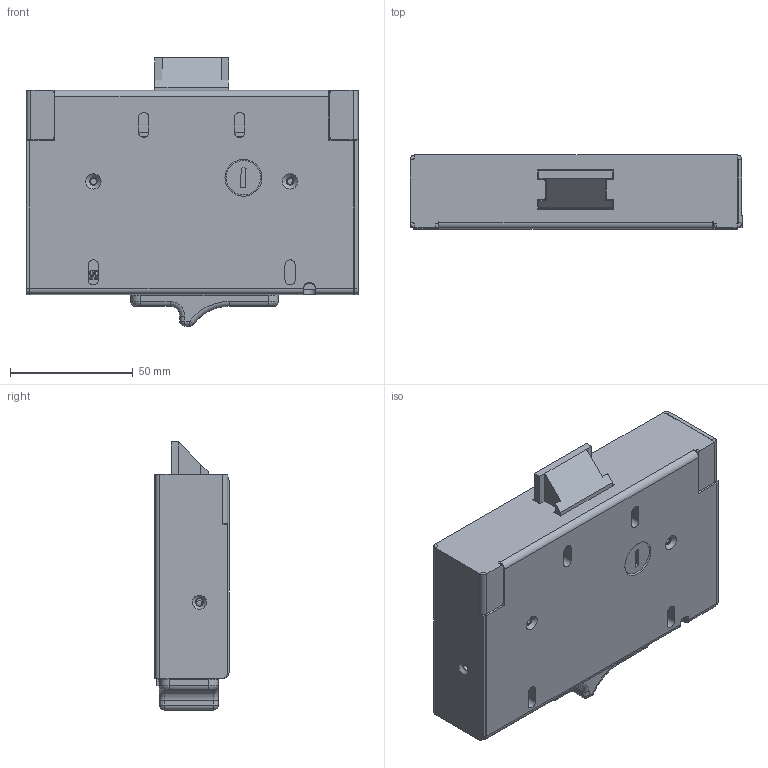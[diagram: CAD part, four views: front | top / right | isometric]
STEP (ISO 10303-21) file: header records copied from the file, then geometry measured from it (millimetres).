
FILE_DESCRIPTION(/* description */ (''),/* implementation_level */ '2;1');
FILE_NAME(/* name */ 'C:\Users\arch\Desktop\Promix-SM215.10-01 упрощенная.stp',/* time_stamp */ '2024-11-13T13:06:19+03:00',/* author */ ('arch'),/* organization */ (''),/* preprocessor_version */ 'ST-DEVELOPER v18',/* originating_system */ 'Autodesk Inventor 2020',/* authorisation */ '');
FILE_SCHEMA (('AUTOMOTIVE_DESIGN { 1 0 10303 214 3 1 1 }'));
Products named in the file (1): Promix-SM215.10-01 упрощенная
Bounding box: 135 x 30.1 x 109.03 mm (x, y, z)
Volume: 123401.2 mm3; surface area: 107302.6 mm2
Topology: 1 solids, 27 shells, 1373 faces, 3824 edges, 2468 vertices
Faces by surface type: plane 806, cylinder 401, cone 68, torus 35, bspline 34, sphere 29
Full cylindrical faces by diameter (mm): 2.1 x8, 2.224 x1, 2.459 x8, 2.5 x5, 2.693 x1, 2.7 x4, 3 x11, 3.1 x4, 3.2 x7, 3.8 x1, 4 x4, 4.2 x8, 5 x4, 5.2 x1, 5.5 x4, 6 x3, 6.3 x2, 7 x4, 8 x9, 9 x1, 10 x2, 10.1 x1, 11 x1, 12 x1, 12.2 x1, 14 x1, 15 x1, 18 x2
Entity records: 59135 total; most frequent: CARTESIAN_POINT 22622, ORIENTED_EDGE 7632, DIRECTION 7419, EDGE_CURVE 3816, AXIS2_PLACEMENT_3D 2574, VERTEX_POINT 2468, LINE 2271, VECTOR 2271
